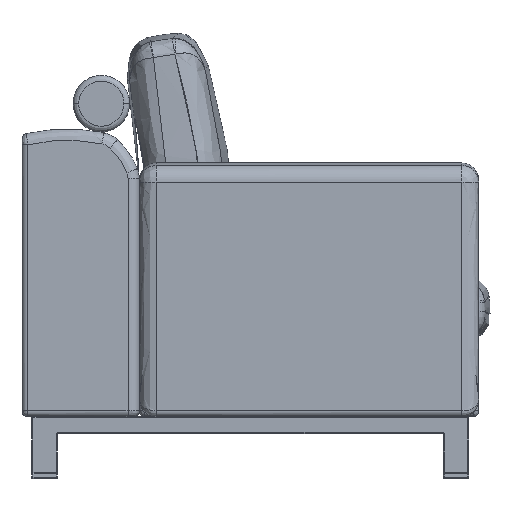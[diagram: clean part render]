
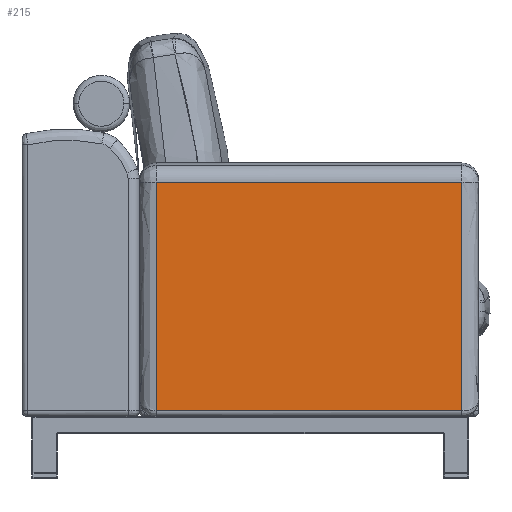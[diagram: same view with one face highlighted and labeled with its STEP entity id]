
A CAD part, left-side view. The second image highlights one B-rep face of the part: STEP entity #215.
In plain terms, the highlighted planar face has unit normal (-1, 0, 0).
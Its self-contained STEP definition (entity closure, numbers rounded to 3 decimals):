
#215=ADVANCED_FACE('',(#629),#5957,.T.);
#629=FACE_OUTER_BOUND('',#1043,.T.);
#1043=EDGE_LOOP('',(#1741,#1742,#1743,#1744));
#1741=ORIENTED_EDGE('',*,*,#3348,.F.);
#1742=ORIENTED_EDGE('',*,*,#3349,.F.);
#1743=ORIENTED_EDGE('',*,*,#3350,.F.);
#1744=ORIENTED_EDGE('',*,*,#3347,.F.);
#3347=EDGE_CURVE('',#5202,#5203,#4700,.T.);
#3348=EDGE_CURVE('',#5204,#5202,#4701,.T.);
#3349=EDGE_CURVE('',#5205,#5204,#4702,.T.);
#3350=EDGE_CURVE('',#5203,#5205,#4703,.T.);
#4700=B_SPLINE_CURVE_WITH_KNOTS('',1,(#35021,#35022),.UNSPECIFIED.,.F.,
 .F.,(2,2),(0.,405.732),.UNSPECIFIED.);
#4701=B_SPLINE_CURVE_WITH_KNOTS('',1,(#35023,#35024),.UNSPECIFIED.,.F.,
 .F.,(2,2),(0.,542.),.UNSPECIFIED.);
#4702=B_SPLINE_CURVE_WITH_KNOTS('',1,(#35025,#35026),.UNSPECIFIED.,.F.,
 .F.,(2,2),(0.,405.732),.UNSPECIFIED.);
#4703=B_SPLINE_CURVE_WITH_KNOTS('',1,(#35027,#35028),.UNSPECIFIED.,.F.,
 .F.,(2,2),(0.,542.),.UNSPECIFIED.);
#5202=VERTEX_POINT('',#34987);
#5203=VERTEX_POINT('',#34988);
#5204=VERTEX_POINT('',#34989);
#5205=VERTEX_POINT('',#34990);
#5957=PLANE('',#6087);
#6087=AXIS2_PLACEMENT_3D('',#33722,#6166,$);
#6166=DIRECTION('',(-1.,0.,0.));
#33722=CARTESIAN_POINT('',(-465.,-183.799,79.426));
#34987=CARTESIAN_POINT('',(-465.,-780.,525.732));
#34988=CARTESIAN_POINT('',(-465.,-780.,120.));
#34989=CARTESIAN_POINT('',(-465.,-238.,525.732));
#34990=CARTESIAN_POINT('',(-465.,-238.,120.));
#35021=CARTESIAN_POINT('',(-465.,-780.,525.732));
#35022=CARTESIAN_POINT('',(-465.,-780.,120.));
#35023=CARTESIAN_POINT('',(-465.,-238.,525.732));
#35024=CARTESIAN_POINT('',(-465.,-780.,525.732));
#35025=CARTESIAN_POINT('',(-465.,-238.,120.));
#35026=CARTESIAN_POINT('',(-465.,-238.,525.732));
#35027=CARTESIAN_POINT('',(-465.,-780.,120.));
#35028=CARTESIAN_POINT('',(-465.,-238.,120.));
